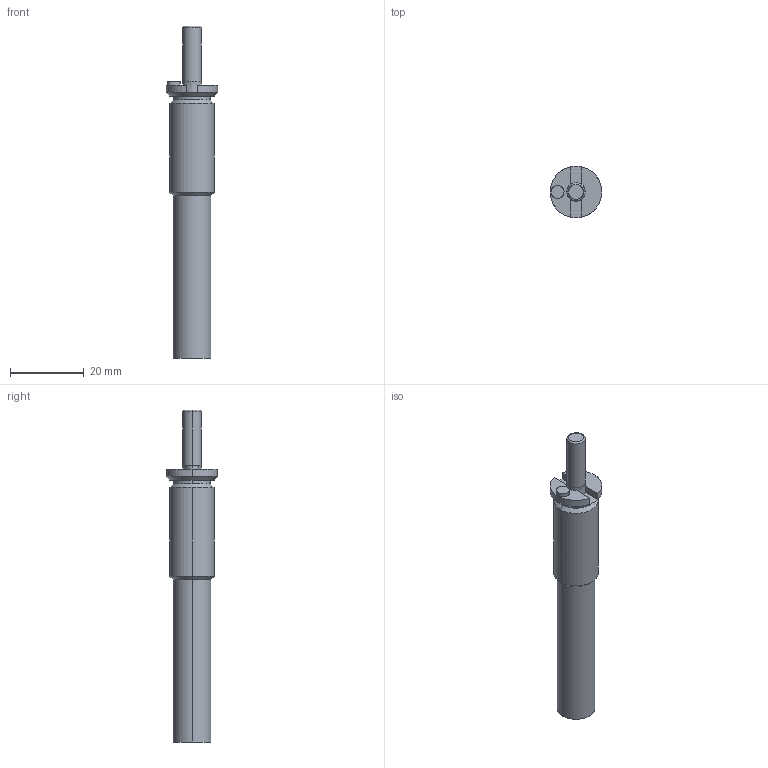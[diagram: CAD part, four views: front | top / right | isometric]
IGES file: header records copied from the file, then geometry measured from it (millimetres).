
Global section: file name: E:\UnigraphicsGraphicData\MISUMI_PRESS-PARTS\IGES\3d_mgsb12-15_04560_r00.igs; native system: NX V5.0; preprocessor: UGS NX IGES V5.0; author: MISUMI; date: 20110105.161433; units: millimetre
Bounding box: 14 x 13.96 x 90 mm (x, y, z)
Surface area: 3158 mm2 (no closed solid volume)
Topology: 0 solids, 0 shells, 36 faces, 198 edges, 198 vertices
Faces by surface type: bspline 36
